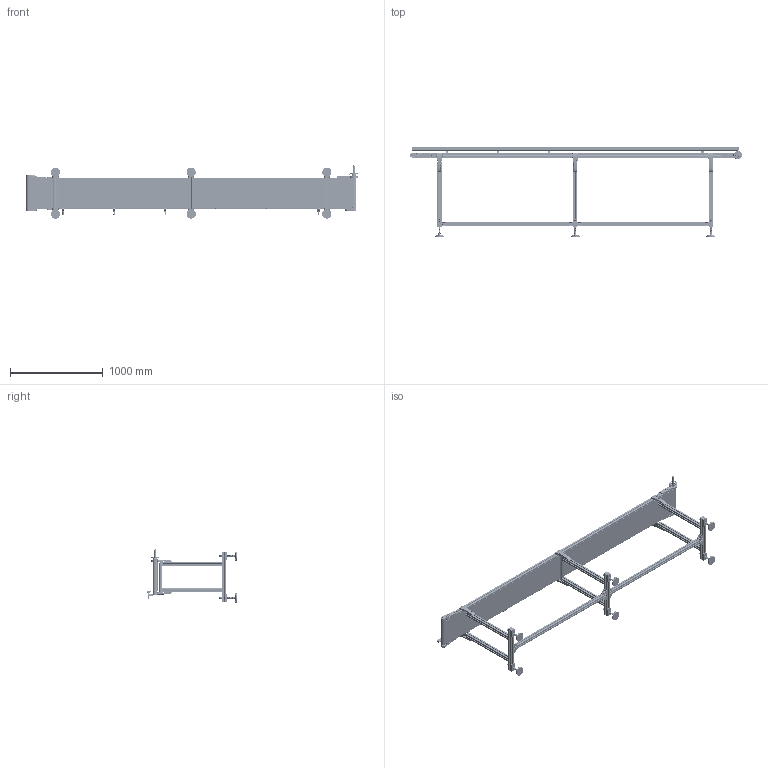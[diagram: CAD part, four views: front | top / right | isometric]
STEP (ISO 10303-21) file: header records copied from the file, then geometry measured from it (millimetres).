
FILE_DESCRIPTION (( 'STEP AP203' ), '1' );
FILE_NAME ('NASTRO_RETTILINEO_TAPPETO.step', '2026-05-28T11:52:46', ( 'Utente Windows' ), ( '' ), 'SwSTEP 2.0', 'SolidWorks 2024', '' );
FILE_SCHEMA (( 'CONFIG_CONTROL_DESIGN' ));
Length unit declared in the file: millimetre
Products named in the file (73): 2010.000.068; BLOCCO_BRACCIO_WA20_WA20; 084.711.006_L1; VITI TCEI UNI 5931_M4x25 UNI 5931; 084.711.007; 084.301.000 VITI ALUSIC1_084.301.003; BLOCCO_TRAINO_50_STANDARD; 084.811.004; 084.303.001; NASTRO_RETTILINEO_TAPPETO; CHIAVETTE_A 5x5x20 UNI 6604-69; 2010.000.069; 084.802.014; RONDELLE UNI 6592_8.4x17 UNI 6592; 084.802.013-2; 084.711.005; 084.807.001_084.807.001; 084.802.071; DADI ESAGONALI NORMALI UNI 5588_M6 UNI 5588; VITI TE UNI 5739_M6x12 UNI 5739; 084.201.012-1; 084.711.006_PER CAVA 8 PERNO ALTO 1; 2010.000.068_L; 084.302.000 DADI ALUSIC 13x13-1_084.302.009; TELAIO_50_STANDARD_Default<A macchina>; VITI TE UNI 5739_M6x16 UNI 5739; 084.810.001; 084.802.065_Default<A macchina>; 084.802.017_084.802.017; BLOCCO_REGGITAPPETO; 084.302.000 DADI ALUSIC 13x13-1_084.302.004; BLOCCO_TRAINO_50_STANDARD_WA20_DX; VITE_DADO_M5X12; ANGOLARE_43; 084.305.003-1; TAPPETO_STANDARD; VITI TSEI UNI 5933 INOX_0412UNI5933A2; 2010.000.070; 084.807.002_084.807.002; 084.711.006_L2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
Assembly tree (205 placements, depth 4):
  NASTRO_RETTILINEO_TAPPETO
    TAPPETO_STANDARD
    TELAIO_50_STANDARD_Default<A macchina>
    LAMIERA_STANDARD  x2
    RULLO_50_Default<A macchina>  x2
    BLOCCO_PERNO_50_WA20
      084.810.001
      084.811.009
      RONDELLE FASCIA LARGA UNI 6593_6.4x24 UNI 6593
      VITI TE UNI 5739_M6x12 UNI 5739
      CHIAVETTE_A 5x5x20 UNI 6604-69
      CHIAVETTE_A 6x6x30 UNI 6604-69  x2
    BLOCCO_TRAINO_50_STANDARD_WA20_DX
      084.807.001_084.807.001
      084.802.034_084.802.034
      084.301.000 VITI ALUSIC_084.301.003  x2
      084.302.000 DADI ALUSIC 13x13-1_084.302.004  x2
      BLOCCO_BRACCIO_WA20_WA20
        084.808.012
        084.802.062
        VITI TE UNI 5739_M6x16 UNI 5739  x4
        084.802.060_Default<A macchina>
        VITI TE UNI 5739_M6x12 UNI 5739  x4
      084.802.065_Default<A macchina>
      VITI TCEI UNI 5931_M4x25 UNI 5931  x2
    BLOCCO_PERNO_50_RINVIO  x3
      084.811.004
      084.810.001
    BLOCCO_TRAINO_50_STANDARD
      084.807.002_084.807.002
      084.802.017_084.802.017
      084.301.000 VITI ALUSIC_084.301.003  x2
      084.302.000 DADI ALUSIC 13x13-1_084.302.004  x2
      084.802.071
      VITI TSEI UNI 5933 INOX_0412UNI5933A2  x2
    BLOCCO_RINVIO_50_STANDARD  x2
      084.807.002_084.807.002
      084.802.017_084.802.017
      084.802.008
      084.301.000 VITI ALUSIC_084.301.003
      084.302.000 DADI ALUSIC 13x13_084.302.004
      VITI TSEI UNI 5933_M4x10 UNI 5933
      084.802.071
    SPONDA_Default<A macchina>
    084.711.006_PER CAVA 8 PERNO ALTO 1  x4
      084.711.006_L1
      084.711.006_L2
      084.711.007
      084.711.005
      084.711.010
      DADI ESAGONALI NORMALI UNI 5588_M6 UNI 5588
    084.712.002  x2
    GAMBE_D50_Default<A macchina>  x3
    FLANGIA_GAMBA_50
      084.302.000 DADI ALUSIC 13x13-1_084.302.004  x4
      RONDELLE UNI 6592_8.4x17 UNI 6592  x3
      084.301.000 VITI ALUSIC_084.301.003  x4
      2010.000.068
        2010.000.068_L
        2010.000.069
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Bounding box: 3572 x 972.1 x 573.35 mm (x, y, z)
Volume: 20748824 mm3; surface area: 18729579.5 mm2
Topology: 436 solids, 441 shells, 22421 faces, 58458 edges, 37107 vertices
Faces by surface type: plane 9048, cylinder 7382, bspline 2433, cone 1785, torus 1537, sphere 236
Entity records: 266376 total; most frequent: CARTESIAN_POINT 88076, ORIENTED_EDGE 36988, DIRECTION 32738, EDGE_CURVE 18494, VERTEX_POINT 11909, AXIS2_PLACEMENT_3D 11186, VECTOR 10366, LINE 10366
